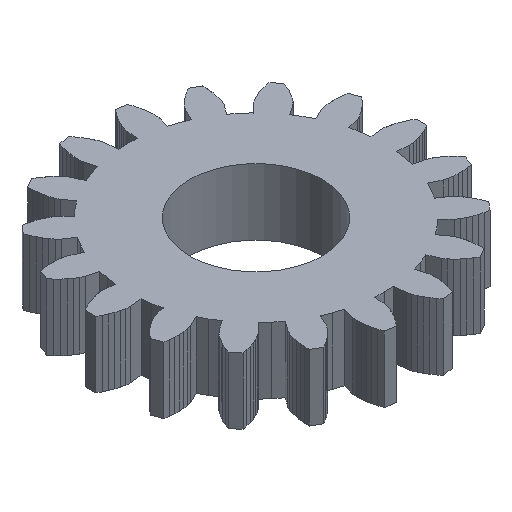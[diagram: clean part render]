
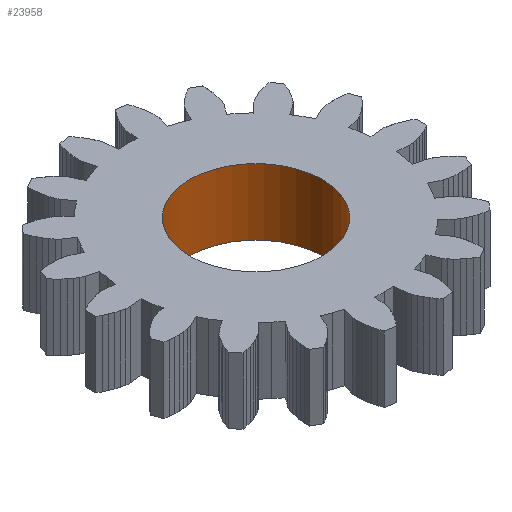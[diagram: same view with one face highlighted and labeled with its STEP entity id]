
A CAD part, isometric view. The second image highlights one B-rep face of the part: STEP entity #23958.
In plain terms, the highlighted cylindrical face has radius 4 mm (diameter 8 mm), a full revolution.
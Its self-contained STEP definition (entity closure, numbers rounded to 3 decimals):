
#72 = PLANE('',#73);
#73 = AXIS2_PLACEMENT_3D('',#74,#75,#76);
#74 = CARTESIAN_POINT('',(0.,0.,-86.));
#75 = DIRECTION('',(0.,0.,1.));
#76 = DIRECTION('',(1.,0.,-0.));
#126 = PLANE('',#127);
#127 = AXIS2_PLACEMENT_3D('',#128,#129,#130);
#128 = CARTESIAN_POINT('',(0.,0.,-90.)
  );
#129 = DIRECTION('',(0.,0.,1.));
#130 = DIRECTION('',(1.,0.,-0.));
#8770 = EDGE_CURVE('',#8771,#8771,#8773,.T.);
#8771 = VERTEX_POINT('',#8772);
#8772 = CARTESIAN_POINT('',(4.,0.,-90.));
#8773 = SURFACE_CURVE('',#8774,(#8779,#8786),.PCURVE_S1.);
#8774 = CIRCLE('',#8775,4.);
#8775 = AXIS2_PLACEMENT_3D('',#8776,#8777,#8778);
#8776 = CARTESIAN_POINT('',(0.,0.,-90.));
#8777 = DIRECTION('',(0.,0.,1.));
#8778 = DIRECTION('',(1.,0.,-0.));
#8779 = PCURVE('',#126,#8780);
#8780 = DEFINITIONAL_REPRESENTATION('',(#8781),#8785);
#8781 = CIRCLE('',#8782,4.);
#8782 = AXIS2_PLACEMENT_2D('',#8783,#8784);
#8783 = CARTESIAN_POINT('',(0.,0.));
#8784 = DIRECTION('',(1.,0.));
#8785 = ( GEOMETRIC_REPRESENTATION_CONTEXT(2) 
PARAMETRIC_REPRESENTATION_CONTEXT() REPRESENTATION_CONTEXT('2D SPACE',''
  ) );
#8786 = PCURVE('',#8787,#8792);
#8787 = CYLINDRICAL_SURFACE('',#8788,4.);
#8788 = AXIS2_PLACEMENT_3D('',#8789,#8790,#8791);
#8789 = CARTESIAN_POINT('',(0.,0.,-90.5));
#8790 = DIRECTION('',(0.,0.,1.));
#8791 = DIRECTION('',(1.,0.,-0.));
#8792 = DEFINITIONAL_REPRESENTATION('',(#8793),#8797);
#8793 = LINE('',#8794,#8795);
#8794 = CARTESIAN_POINT('',(0.,0.5));
#8795 = VECTOR('',#8796,1.);
#8796 = DIRECTION('',(1.,0.));
#8797 = ( GEOMETRIC_REPRESENTATION_CONTEXT(2) 
PARAMETRIC_REPRESENTATION_CONTEXT() REPRESENTATION_CONTEXT('2D SPACE',''
  ) );
#15774 = EDGE_CURVE('',#15775,#15775,#15777,.T.);
#15775 = VERTEX_POINT('',#15776);
#15776 = CARTESIAN_POINT('',(4.,0.,-86.));
#15777 = SURFACE_CURVE('',#15778,(#15783,#15790),.PCURVE_S1.);
#15778 = CIRCLE('',#15779,4.);
#15779 = AXIS2_PLACEMENT_3D('',#15780,#15781,#15782);
#15780 = CARTESIAN_POINT('',(0.,0.,-86.));
#15781 = DIRECTION('',(0.,0.,1.));
#15782 = DIRECTION('',(1.,0.,-0.));
#15783 = PCURVE('',#72,#15784);
#15784 = DEFINITIONAL_REPRESENTATION('',(#15785),#15789);
#15785 = CIRCLE('',#15786,4.);
#15786 = AXIS2_PLACEMENT_2D('',#15787,#15788);
#15787 = CARTESIAN_POINT('',(0.,0.));
#15788 = DIRECTION('',(1.,0.));
#15789 = ( GEOMETRIC_REPRESENTATION_CONTEXT(2) 
PARAMETRIC_REPRESENTATION_CONTEXT() REPRESENTATION_CONTEXT('2D SPACE',''
  ) );
#15790 = PCURVE('',#8787,#15791);
#15791 = DEFINITIONAL_REPRESENTATION('',(#15792),#15796);
#15792 = LINE('',#15793,#15794);
#15793 = CARTESIAN_POINT('',(0.,4.5));
#15794 = VECTOR('',#15795,1.);
#15795 = DIRECTION('',(1.,0.));
#15796 = ( GEOMETRIC_REPRESENTATION_CONTEXT(2) 
PARAMETRIC_REPRESENTATION_CONTEXT() REPRESENTATION_CONTEXT('2D SPACE',''
  ) );
#23958 = ADVANCED_FACE('',(#23959),#8787,.F.);
#23959 = FACE_BOUND('',#23960,.F.);
#23960 = EDGE_LOOP('',(#23961,#23962,#23983,#23984));
#23961 = ORIENTED_EDGE('',*,*,#15774,.F.);
#23962 = ORIENTED_EDGE('',*,*,#23963,.F.);
#23963 = EDGE_CURVE('',#8771,#15775,#23964,.T.);
#23964 = SEAM_CURVE('',#23965,(#23969,#23976),.PCURVE_S1.);
#23965 = LINE('',#23966,#23967);
#23966 = CARTESIAN_POINT('',(4.,0.,-90.5));
#23967 = VECTOR('',#23968,1.);
#23968 = DIRECTION('',(0.,0.,1.));
#23969 = PCURVE('',#8787,#23970);
#23970 = DEFINITIONAL_REPRESENTATION('',(#23971),#23975);
#23971 = LINE('',#23972,#23973);
#23972 = CARTESIAN_POINT('',(6.283,-0.));
#23973 = VECTOR('',#23974,1.);
#23974 = DIRECTION('',(0.,1.));
#23975 = ( GEOMETRIC_REPRESENTATION_CONTEXT(2) 
PARAMETRIC_REPRESENTATION_CONTEXT() REPRESENTATION_CONTEXT('2D SPACE',''
  ) );
#23976 = PCURVE('',#8787,#23977);
#23977 = DEFINITIONAL_REPRESENTATION('',(#23978),#23982);
#23978 = LINE('',#23979,#23980);
#23979 = CARTESIAN_POINT('',(0.,-0.));
#23980 = VECTOR('',#23981,1.);
#23981 = DIRECTION('',(0.,1.));
#23982 = ( GEOMETRIC_REPRESENTATION_CONTEXT(2) 
PARAMETRIC_REPRESENTATION_CONTEXT() REPRESENTATION_CONTEXT('2D SPACE',''
  ) );
#23983 = ORIENTED_EDGE('',*,*,#8770,.T.);
#23984 = ORIENTED_EDGE('',*,*,#23963,.T.);
